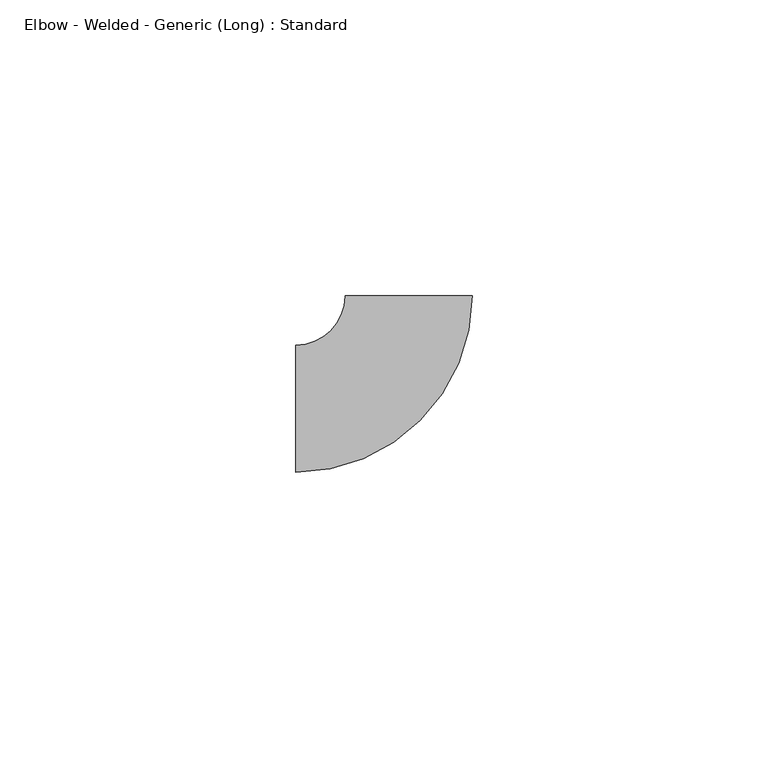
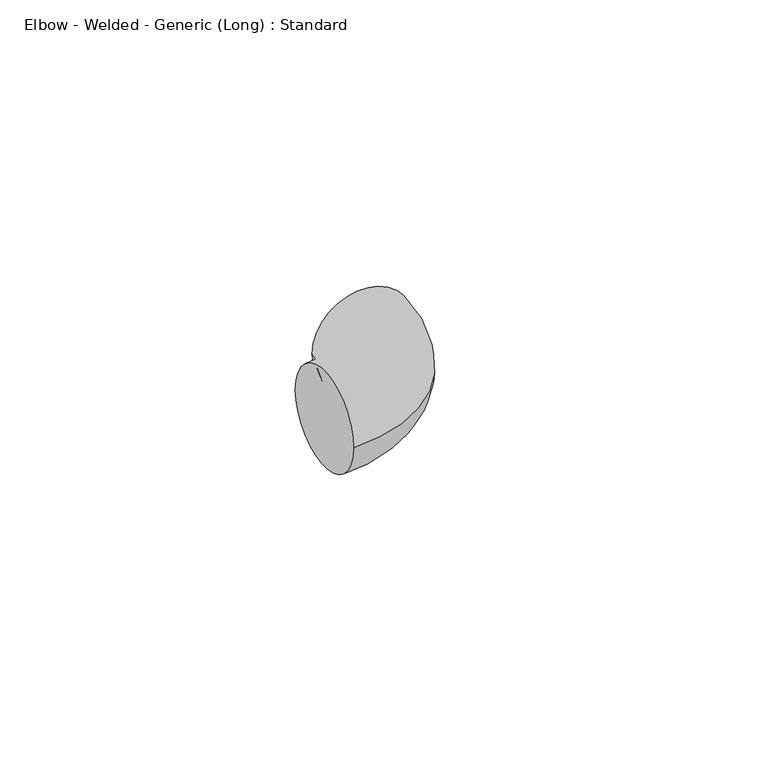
"""IFC4 building model written with IfcOpenShell, lengths in millimetres: pipe fitting geometry, Elbow - Welded - Generic (Long) : Standard."""

from ifc_helpers import new_model, si_unit, point, frame, origin, place, context, project, spatial, circle_curve, ellipse_curve, trimmed, source, transform, mapped, element, save
from ifc_brep_helpers import plane_surface, revolved_surface, advanced_brep


def elbow_welded_generic_long_standard_a0f0cff7(model_context):
    return source(origin(), model_context, "Body", "AdvancedBrep", [
        advanced_brep(
        [(-19.05, -10.715625, 0.0), (-19.05, 10.715625, 0.0), (10.7187991, 19.0482142, 0.0), (-10.7124506, 19.0517852, 0.0)],
        [
            (0, 1, circle_curve(frame((-19.05, 0.0, 0.0), z_axis=(-1.0, 0.0, 0.0), x_axis=(0.0, 1.0, 0.0)), 10.715625)),
            (1, 0, circle_curve(frame((-19.05, 0.0, 0.0), z_axis=(-1.0, 0.0, 0.0), x_axis=(0.0, 1.0, 0.0)), 10.715625)),
            (2, 3, circle_curve(frame((0.0031742, 19.0499997, 0.0), z_axis=(0.00016662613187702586, 0.999999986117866, 0.0), x_axis=(-0.999999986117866, 0.00016662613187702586, 0.0)), 10.715625)),
            (3, 2, circle_curve(frame((0.0031742, 19.0499997, 0.0), z_axis=(0.00016662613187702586, 0.999999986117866, 0.0), x_axis=(-0.999999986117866, 0.00016662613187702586, 0.0)), 10.715625)),
            (3, 1, circle_curve(frame((-19.05, 19.0531745, 0.0), z_axis=(0.0, 0.0, -1.0), x_axis=(0.0, -1.0, 0.0)), 8.3375495)),
            (0, 2, circle_curve(frame((-19.05, 19.0531745, 0.0), z_axis=(0.0, 0.0, 1.0), x_axis=(0.0, -1.0, 0.0)), 29.7687995)),
        ],
        [
            plane_surface(frame((-19.05, 0.0, 0.0), z_axis=(-1.0, 0.0, 0.0), x_axis=(0.0, 0.0, 1.0))),
            plane_surface(frame((0.0031742, 19.0499997, 0.0), z_axis=(0.00016662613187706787, 0.9999999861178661, 0.0), x_axis=(0.0, 0.0, 1.0))),
            revolved_surface(trimmed(ellipse_curve(frame((-19.05, 0.0, 0.0), z_axis=(-1.0, 0.0, 0.0), x_axis=(0.0, 1.0, 0.0)), 10.715625, 10.715625), [point((-19.05, -10.715625, 0.0))], [point((-19.05, 10.715625, 0.0))], True, "CARTESIAN"), (-19.05, 19.0531745, 0.0), (0.0, 0.0, 1.0)),
            revolved_surface(trimmed(ellipse_curve(frame((-19.05, 0.0, 0.0), z_axis=(-1.0, 0.0, 0.0), x_axis=(0.0, 1.0, 0.0)), 10.715625, 10.715625), [point((-19.05, 10.715625, 0.0))], [point((-19.05, -10.715625, 0.0))], True, "CARTESIAN"), (-19.05, 19.0531745, 0.0), (0.0, 0.0, 1.0)),
        ],
        [
            (0, [[1, 2]]),
            (1, [[3, 4]]),
            (2, [[5, -1, 6, -4]]),
            (3, [[-6, -2, -5, -3]]),
        ],
    ),
    ])


if __name__ == "__main__":
    model = new_model("IFC4")
    model_context = context("Model", 3, world=origin())
    ifc_project = project(units=[si_unit("LENGTHUNIT", "METRE", prefix="MILLI")], contexts=[model_context])
    site = spatial("IfcSite", under=ifc_project)
    building = spatial("IfcBuilding", under=site)
    placement = place(None, origin())
    elbow_welded_generic_long_standard_shape = elbow_welded_generic_long_standard_a0f0cff7(model_context)
    element("IfcPipeFitting", 1, ObjectType="Elbow - Welded - Generic (Long) : Standard", at=placement, inside=building, context=model_context, shape_type="MappedRepresentation", body=[
        mapped(elbow_welded_generic_long_standard_shape, transform((0.0, 0.0, 0.0), x_axis=(1.0, 0.0, 0.0), y_axis=(0.0, 1.0, 0.0), z_axis=(0.0, 0.0, 1.0))),
    ])
    save(model, "model.ifc")
